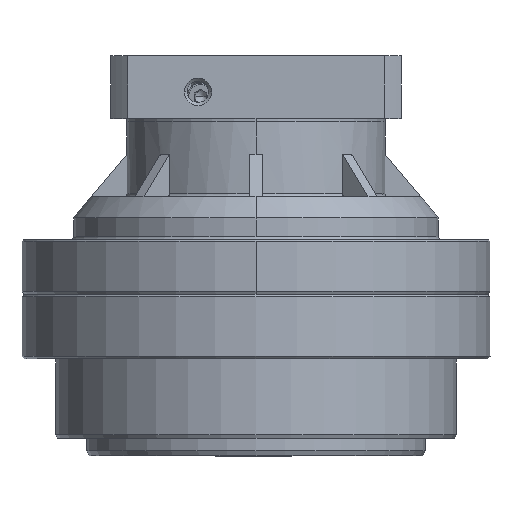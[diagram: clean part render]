
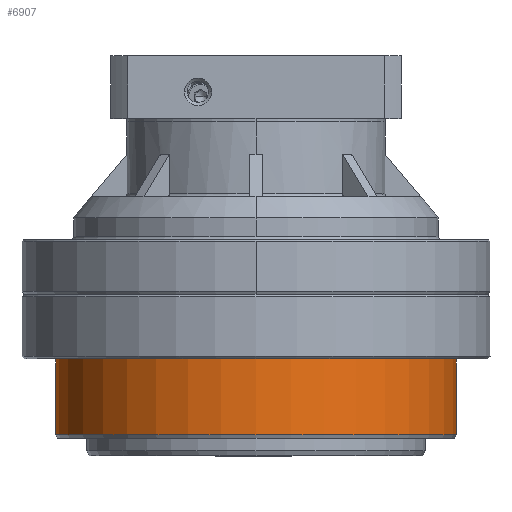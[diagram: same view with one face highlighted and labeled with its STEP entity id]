
A CAD part, front view. The second image highlights one B-rep face of the part: STEP entity #6907.
In plain terms, the highlighted cylindrical face has radius 62 mm (diameter 124 mm), a partial arc.
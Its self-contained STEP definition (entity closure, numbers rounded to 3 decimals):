
#6907 = ADVANCED_FACE ( 'NONE', ( #85846 ), #54791, .T. ) ;
#20474 = DIRECTION ( 'NONE',  ( 0., 0., 1. ) ) ;
#22082 = ORIENTED_EDGE ( 'NONE', *, *, #61734, .F. ) ;
#23491 = LINE ( 'NONE', #73090, #84313 ) ;
#24137 = CARTESIAN_POINT ( 'NONE',  ( 62., 0., 0. ) ) ;
#30136 = CIRCLE ( 'NONE', #66150, 62. ) ;
#35512 = DIRECTION ( 'NONE',  ( 1., 0., 0. ) ) ;
#38102 = VERTEX_POINT ( 'NONE', #67319 ) ;
#39568 = CIRCLE ( 'NONE', #98812, 62. ) ;
#44075 = EDGE_CURVE ( 'NONE', #121432, #60467, #30136, .T. ) ;
#44436 = DIRECTION ( 'NONE',  ( 0., 0., -1. ) ) ;
#48368 = VERTEX_POINT ( 'NONE', #104312 ) ;
#50152 = ORIENTED_EDGE ( 'NONE', *, *, #44075, .F. ) ;
#54791 = CYLINDRICAL_SURFACE ( 'NONE', #125720, 62. ) ;
#60467 = VERTEX_POINT ( 'NONE', #80318 ) ;
#61734 = EDGE_CURVE ( 'NONE', #48368, #38102, #39568, .T. ) ;
#64650 = DIRECTION ( 'NONE',  ( 0., 0., -1. ) ) ;
#65148 = LINE ( 'NONE', #24137, #96652 ) ;
#66150 = AXIS2_PLACEMENT_3D ( 'NONE', #105309, #44436, #84822 ) ;
#67319 = CARTESIAN_POINT ( 'NONE',  ( 62., 0., 0. ) ) ;
#73090 = CARTESIAN_POINT ( 'NONE',  ( -62., 0., 0. ) ) ;
#74952 = EDGE_CURVE ( 'NONE', #48368, #60467, #23491, .T. ) ;
#75059 = DIRECTION ( 'NONE',  ( 0., 0., -1. ) ) ;
#77170 = CARTESIAN_POINT ( 'NONE',  ( 0., 0., 0. ) ) ;
#80318 = CARTESIAN_POINT ( 'NONE',  ( -62., 0., -23.5 ) ) ;
#84313 = VECTOR ( 'NONE', #75059, 1000. ) ;
#84822 = DIRECTION ( 'NONE',  ( 1., 0., 0. ) ) ;
#85846 = FACE_OUTER_BOUND ( 'NONE', #113412, .T. ) ;
#86177 = ORIENTED_EDGE ( 'NONE', *, *, #110620, .F. ) ;
#94925 = DIRECTION ( 'NONE',  ( 0., 0., -1. ) ) ;
#96652 = VECTOR ( 'NONE', #94925, 1000. ) ;
#98812 = AXIS2_PLACEMENT_3D ( 'NONE', #129767, #20474, #100603 ) ;
#100603 = DIRECTION ( 'NONE',  ( 1., 0., 0. ) ) ;
#104312 = CARTESIAN_POINT ( 'NONE',  ( -62., 0., 0. ) ) ;
#105309 = CARTESIAN_POINT ( 'NONE',  ( 0., 0., -23.5 ) ) ;
#110620 = EDGE_CURVE ( 'NONE', #38102, #121432, #65148, .T. ) ;
#113412 = EDGE_LOOP ( 'NONE', ( #22082, #117139, #50152, #86177 ) ) ;
#117139 = ORIENTED_EDGE ( 'NONE', *, *, #74952, .T. ) ;
#121432 = VERTEX_POINT ( 'NONE', #126324 ) ;
#125720 = AXIS2_PLACEMENT_3D ( 'NONE', #77170, #64650, #35512 ) ;
#126324 = CARTESIAN_POINT ( 'NONE',  ( 62., 0., -23.5 ) ) ;
#129767 = CARTESIAN_POINT ( 'NONE',  ( 0., 0., 0. ) ) ;
